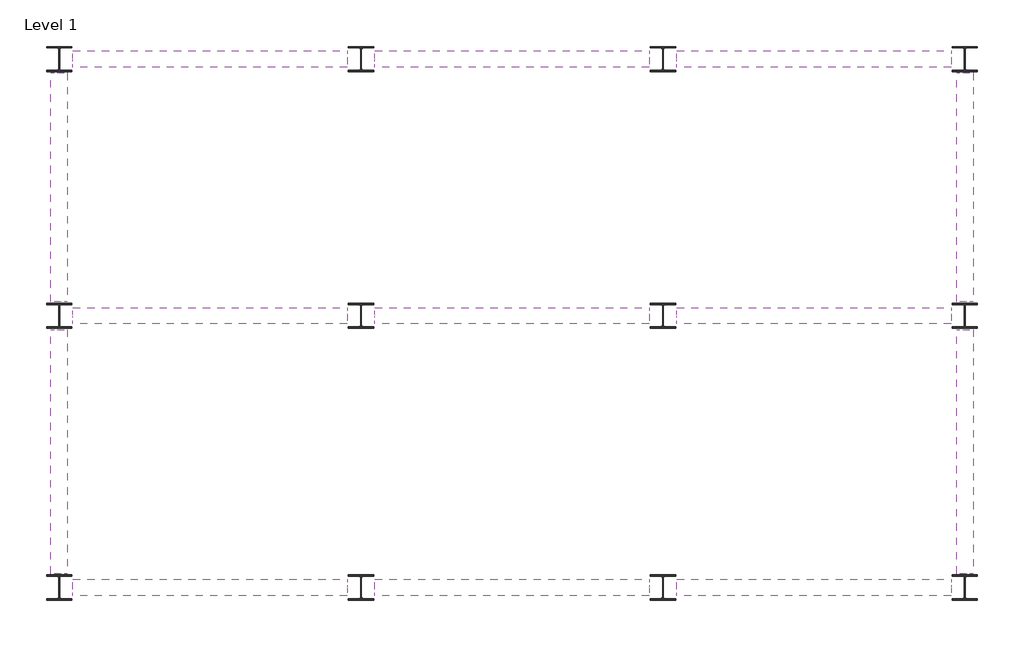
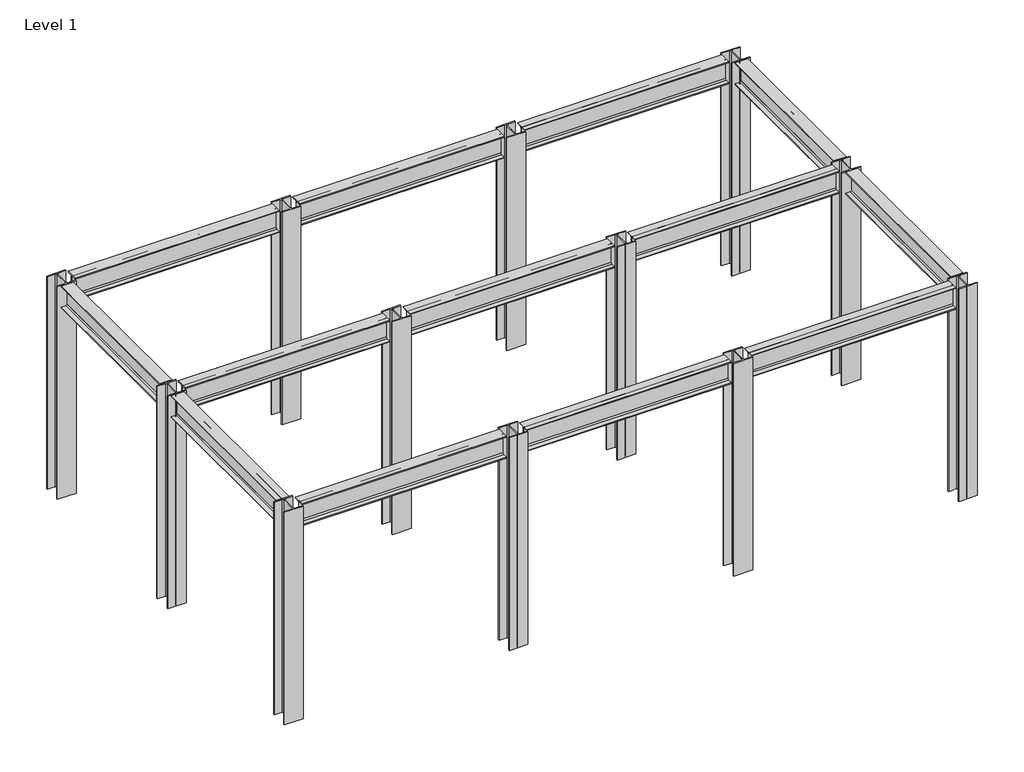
# One storey: 13 beams, 12 columns.
"""IFC4 building model written with IfcOpenShell, lengths in millimetres."""

from ifc_helpers import new_model, si_unit, origin, place, context, project, spatial, transform, mapped, element, save
from components import w_wide_flange_w12x26_9f1b822f, w_wide_flange_w12x26_4a3d4e5c, w_wide_flange_w12x26_9b0e6c77, w_wide_flange_column_w10x49_f24ffb9b

model = new_model("IFC4")

# Units and contexts
model_context = context("Model", 3, world=origin())
ifc_project = project(units=[si_unit("LENGTHUNIT", "METRE", prefix="MILLI")], contexts=[model_context])

# Site, building, storey
site = spatial("IfcSite", under=ifc_project)
building = spatial("IfcBuilding", under=site)
storey = spatial("IfcBuildingStorey", under=building, Name="Level 1", Elevation=0.0)

# Beams
placement = place(None, origin())
w_wide_flange_w12x26_shape = w_wide_flange_w12x26_9f1b822f(model_context)
element("IfcBeam", 1, ObjectType="W-Wide Flange : W12X26", at=placement, inside=storey, context=model_context, shape_type="MappedRepresentation", body=[
    mapped(w_wide_flange_w12x26_shape, transform((-19668.8900586, 15558.5206885, 2892.821875), x_axis=(1.0, 0.0, 0.0), y_axis=(0.0, 1.0, 0.0), z_axis=(0.0, 0.0, 1.0))),
])
element("IfcBeam", 2, ObjectType="W-Wide Flange : W12X26", at=placement, inside=storey, context=model_context, shape_type="MappedRepresentation", body=[
    mapped(w_wide_flange_w12x26_shape, transform((-16620.8900586, 15558.5206885, 2892.821875), x_axis=(1.0, 0.0, 0.0), y_axis=(0.0, 1.0, 0.0), z_axis=(0.0, 0.0, 1.0))),
])
element("IfcBeam", 3, ObjectType="W-Wide Flange : W12X26", at=placement, inside=storey, context=model_context, shape_type="MappedRepresentation", body=[
    mapped(w_wide_flange_w12x26_shape, transform((-13572.8900586, 15558.5206885, 2892.821875), x_axis=(1.0, 0.0, 0.0), y_axis=(0.0, 1.0, 0.0), z_axis=(0.0, 0.0, 1.0))),
])
element("IfcBeam", 4, ObjectType="W-Wide Flange : W12X26", at=placement, inside=storey, context=model_context, shape_type="MappedRepresentation", body=[
    mapped(w_wide_flange_w12x26_shape, transform((-13572.8900586, 10224.5206885, 2892.821875), x_axis=(-1.0, 0.0, 0.0), y_axis=(0.0, -1.0, 0.0), z_axis=(0.0, 0.0, 1.0))),
])
element("IfcBeam", 5, ObjectType="W-Wide Flange : W12X26", at=placement, inside=storey, context=model_context, shape_type="MappedRepresentation", body=[
    mapped(w_wide_flange_w12x26_shape, transform((-16620.8900586, 10224.5206885, 2892.821875), x_axis=(-1.0, 0.0, 0.0), y_axis=(0.0, -1.0, 0.0), z_axis=(0.0, 0.0, 1.0))),
])
element("IfcBeam", 6, ObjectType="W-Wide Flange : W12X26", at=placement, inside=storey, context=model_context, shape_type="MappedRepresentation", body=[
    mapped(w_wide_flange_w12x26_shape, transform((-19668.8900586, 10224.5206885, 2892.821875), x_axis=(-1.0, 0.0, 0.0), y_axis=(0.0, -1.0, 0.0), z_axis=(0.0, 0.0, 1.0))),
])
element("IfcBeam", 7, ObjectType="W-Wide Flange : W12X26", at=placement, inside=storey, context=model_context, shape_type="MappedRepresentation", body=[
    mapped(w_wide_flange_w12x26_shape, transform((-19668.8900586, 12967.7206885, 2892.821875), x_axis=(1.0, 0.0, 0.0), y_axis=(0.0, 1.0, 0.0), z_axis=(0.0, 0.0, 1.0))),
])
element("IfcBeam", 8, ObjectType="W-Wide Flange : W12X26", at=placement, inside=storey, context=model_context, shape_type="MappedRepresentation", body=[
    mapped(w_wide_flange_w12x26_shape, transform((-16620.8900586, 12967.7206885, 2892.821875), x_axis=(1.0, 0.0, 0.0), y_axis=(0.0, 1.0, 0.0), z_axis=(0.0, 0.0, 1.0))),
])
element("IfcBeam", 9, ObjectType="W-Wide Flange : W12X26", at=placement, inside=storey, context=model_context, shape_type="MappedRepresentation", body=[
    mapped(w_wide_flange_w12x26_shape, transform((-13572.8900586, 12967.7206885, 2892.821875), x_axis=(1.0, 0.0, 0.0), y_axis=(0.0, 1.0, 0.0), z_axis=(0.0, 0.0, 1.0))),
])
w_wide_flange_w12x26_2_shape = w_wide_flange_w12x26_4a3d4e5c(model_context)
element("IfcBeam", 10, ObjectType="W-Wide Flange : W12X26", at=placement, inside=storey, context=model_context, shape_type="MappedRepresentation", body=[
    mapped(w_wide_flange_w12x26_2_shape, transform((-12048.8900586, 14263.1206885, 2892.821875), x_axis=(0.0, -1.0, 0.0), y_axis=(1.0, 0.0, 0.0), z_axis=(0.0, 0.0, 1.0))),
])
element("IfcBeam", 11, ObjectType="W-Wide Flange : W12X26", at=placement, inside=storey, context=model_context, shape_type="MappedRepresentation", body=[
    mapped(w_wide_flange_w12x26_2_shape, transform((-21192.8900586, 14263.1206885, 2892.821875), x_axis=(0.0, 1.0, 0.0), y_axis=(-1.0, 0.0, 0.0), z_axis=(0.0, 0.0, 1.0))),
])
w_wide_flange_w12x26_3_shape = w_wide_flange_w12x26_9b0e6c77(model_context)
element("IfcBeam", 12, ObjectType="W-Wide Flange : W12X26", at=placement, inside=storey, context=model_context, shape_type="MappedRepresentation", body=[
    mapped(w_wide_flange_w12x26_3_shape, transform((-12048.8900586, 11596.1206885, 2892.821875), x_axis=(0.0, -1.0, 0.0), y_axis=(1.0, 0.0, 0.0), z_axis=(0.0, 0.0, 1.0))),
])
element("IfcBeam", 13, ObjectType="W-Wide Flange : W12X26", at=placement, inside=storey, context=model_context, shape_type="MappedRepresentation", body=[
    mapped(w_wide_flange_w12x26_3_shape, transform((-21192.8900586, 11596.1206885, 2892.821875), x_axis=(0.0, 1.0, 0.0), y_axis=(-1.0, 0.0, 0.0), z_axis=(0.0, 0.0, 1.0))),
])

# Columns
w_wide_flange_column_w10x49_shape = w_wide_flange_column_w10x49_f24ffb9b(model_context)
element("IfcColumn", 14, ObjectType="W-Wide Flange-Column : W10X49", at=placement, inside=storey, context=model_context, shape_type="MappedRepresentation", body=[
    mapped(w_wide_flange_column_w10x49_shape, transform((-21192.8900586, 15558.5206885, 0.0), x_axis=(1.0, 0.0, 0.0), y_axis=(0.0, 1.0, 0.0), z_axis=(0.0, 0.0, 1.0))),
])
element("IfcColumn", 15, ObjectType="W-Wide Flange-Column : W10X49", at=placement, inside=storey, context=model_context, shape_type="MappedRepresentation", body=[
    mapped(w_wide_flange_column_w10x49_shape, transform((-18144.8900586, 15558.5206885, 0.0), x_axis=(1.0, 0.0, 0.0), y_axis=(0.0, 1.0, 0.0), z_axis=(0.0, 0.0, 1.0))),
])
element("IfcColumn", 16, ObjectType="W-Wide Flange-Column : W10X49", at=placement, inside=storey, context=model_context, shape_type="MappedRepresentation", body=[
    mapped(w_wide_flange_column_w10x49_shape, transform((-15096.8900586, 15558.5206885, 0.0), x_axis=(1.0, 0.0, 0.0), y_axis=(0.0, 1.0, 0.0), z_axis=(0.0, 0.0, 1.0))),
])
element("IfcColumn", 17, ObjectType="W-Wide Flange-Column : W10X49", at=placement, inside=storey, context=model_context, shape_type="MappedRepresentation", body=[
    mapped(w_wide_flange_column_w10x49_shape, transform((-12048.8900586, 15558.5206885, 0.0), x_axis=(1.0, 0.0, 0.0), y_axis=(0.0, 1.0, 0.0), z_axis=(0.0, 0.0, 1.0))),
])
element("IfcColumn", 18, ObjectType="W-Wide Flange-Column : W10X49", at=placement, inside=storey, context=model_context, shape_type="MappedRepresentation", body=[
    mapped(w_wide_flange_column_w10x49_shape, transform((-21192.8900586, 12967.7206885, 0.0), x_axis=(1.0, 0.0, 0.0), y_axis=(0.0, 1.0, 0.0), z_axis=(0.0, 0.0, 1.0))),
])
element("IfcColumn", 19, ObjectType="W-Wide Flange-Column : W10X49", at=placement, inside=storey, context=model_context, shape_type="MappedRepresentation", body=[
    mapped(w_wide_flange_column_w10x49_shape, transform((-18144.8900586, 12967.7206885, 0.0), x_axis=(1.0, 0.0, 0.0), y_axis=(0.0, 1.0, 0.0), z_axis=(0.0, 0.0, 1.0))),
])
element("IfcColumn", 20, ObjectType="W-Wide Flange-Column : W10X49", at=placement, inside=storey, context=model_context, shape_type="MappedRepresentation", body=[
    mapped(w_wide_flange_column_w10x49_shape, transform((-15096.8900586, 12967.7206885, 0.0), x_axis=(1.0, 0.0, 0.0), y_axis=(0.0, 1.0, 0.0), z_axis=(0.0, 0.0, 1.0))),
])
element("IfcColumn", 21, ObjectType="W-Wide Flange-Column : W10X49", at=placement, inside=storey, context=model_context, shape_type="MappedRepresentation", body=[
    mapped(w_wide_flange_column_w10x49_shape, transform((-12048.8900586, 12967.7206885, 0.0), x_axis=(1.0, 0.0, 0.0), y_axis=(0.0, 1.0, 0.0), z_axis=(0.0, 0.0, 1.0))),
])
element("IfcColumn", 22, ObjectType="W-Wide Flange-Column : W10X49", at=placement, inside=storey, context=model_context, shape_type="MappedRepresentation", body=[
    mapped(w_wide_flange_column_w10x49_shape, transform((-21192.8900586, 10224.5206885, 0.0), x_axis=(1.0, 0.0, 0.0), y_axis=(0.0, 1.0, 0.0), z_axis=(0.0, 0.0, 1.0))),
])
element("IfcColumn", 23, ObjectType="W-Wide Flange-Column : W10X49", at=placement, inside=storey, context=model_context, shape_type="MappedRepresentation", body=[
    mapped(w_wide_flange_column_w10x49_shape, transform((-18144.8900586, 10224.5206885, 0.0), x_axis=(1.0, 0.0, 0.0), y_axis=(0.0, 1.0, 0.0), z_axis=(0.0, 0.0, 1.0))),
])
element("IfcColumn", 24, ObjectType="W-Wide Flange-Column : W10X49", at=placement, inside=storey, context=model_context, shape_type="MappedRepresentation", body=[
    mapped(w_wide_flange_column_w10x49_shape, transform((-15096.8900586, 10224.5206885, 0.0), x_axis=(1.0, 0.0, 0.0), y_axis=(0.0, 1.0, 0.0), z_axis=(0.0, 0.0, 1.0))),
])
element("IfcColumn", 25, ObjectType="W-Wide Flange-Column : W10X49", at=placement, inside=storey, context=model_context, shape_type="MappedRepresentation", body=[
    mapped(w_wide_flange_column_w10x49_shape, transform((-12048.8900586, 10224.5206885, 0.0), x_axis=(1.0, 0.0, 0.0), y_axis=(0.0, 1.0, 0.0), z_axis=(0.0, 0.0, 1.0))),
])

save(model, "model.ifc")
